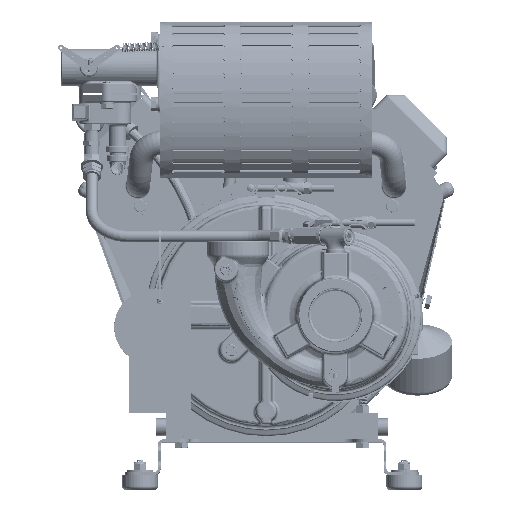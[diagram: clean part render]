
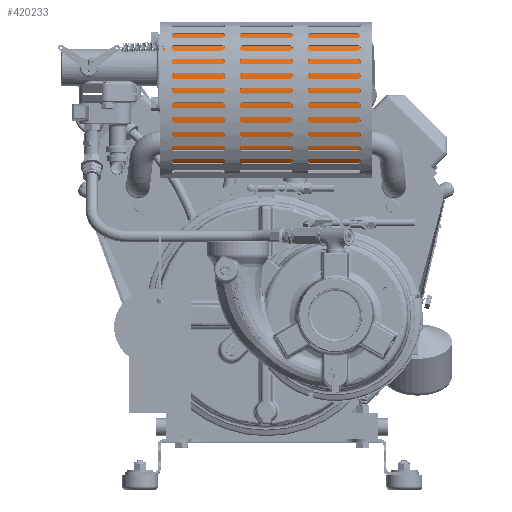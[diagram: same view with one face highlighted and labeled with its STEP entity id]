
A CAD part, top view. The second image highlights one B-rep face of the part: STEP entity #420233.
In plain terms, the highlighted free-form (B-spline) face has degree [3, 1] with [4, 2] control points.
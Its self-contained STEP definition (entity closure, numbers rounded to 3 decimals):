
#43810 = CARTESIAN_POINT ( 'NONE',  ( 104.819, 328.498, 188.824 ) ) ;
#59015 = ORIENTED_EDGE ( 'NONE', *, *, #178415, .T. ) ;
#71628 = CARTESIAN_POINT ( 'NONE',  ( 104.819, 328.498, 112.624 ) ) ;
#74162 = VECTOR ( 'NONE', #372693, 1000. ) ;
#76799 = CARTESIAN_POINT ( 'NONE',  ( -117.431, 477.85, 112.624 ) ) ;
#83897 = CARTESIAN_POINT ( 'NONE',  ( -117.431, 477.85, 112.624 ) ) ;
#85684 = LINE ( 'NONE', #189418, #74162 ) ;
#100847 = ORIENTED_EDGE ( 'NONE', *, *, #359178, .F. ) ;
#120546 = CARTESIAN_POINT ( 'NONE',  ( -117.431, 477.85, 188.824 ) ) ;
#121052 = VERTEX_POINT ( 'NONE', #398915 ) ;
#130150 = CARTESIAN_POINT ( 'NONE',  ( 104.819, 477.85, 112.624 ) ) ;
#140943 = VERTEX_POINT ( 'NONE', #71628 ) ;
#144332 = FACE_OUTER_BOUND ( 'NONE', #299864, .T. ) ;
#152283 =( BOUNDED_CURVE ( )  B_SPLINE_CURVE ( 3, ( #225358, #262009, #43810, #298632 ),
 .UNSPECIFIED., .F., .F. ) 
 B_SPLINE_CURVE_WITH_KNOTS ( ( 4, 4 ),
 ( 3.142, 6.283 ),
 .UNSPECIFIED. ) 
 CURVE ( )  GEOMETRIC_REPRESENTATION_ITEM ( )  RATIONAL_B_SPLINE_CURVE ( ( 1., 0.333, 0.333, 1. ) ) 
 REPRESENTATION_ITEM ( '' )  );
#157223 = CARTESIAN_POINT ( 'NONE',  ( -117.431, 328.498, 188.824 ) ) ;
#157248 = VECTOR ( 'NONE', #239265, 1000. ) ;
#178415 = EDGE_CURVE ( 'NONE', #273023, #121052, #85684, .T. ) ;
#180025 = LINE ( 'NONE', #202708, #157248 ) ;
#189418 = CARTESIAN_POINT ( 'NONE',  ( 104.819, 477.85, 112.624 ) ) ;
#193703 = CARTESIAN_POINT ( 'NONE',  ( -117.431, 328.498, 112.624 ) ) ;
#202708 = CARTESIAN_POINT ( 'NONE',  ( 104.819, 328.498, 112.624 ) ) ;
#210776 = CARTESIAN_POINT ( 'NONE',  ( -117.431, 328.498, 112.624 ) ) ;
#225358 = CARTESIAN_POINT ( 'NONE',  ( 104.819, 477.85, 112.624 ) ) ;
#239265 = DIRECTION ( 'NONE',  ( -1., 0., 0. ) ) ;
#242318 = CARTESIAN_POINT ( 'NONE',  ( -117.431, 328.498, 112.624 ) ) ;
#253048 = EDGE_CURVE ( 'NONE', #140943, #365871, #180025, .T. ) ;
#259581 = ORIENTED_EDGE ( 'NONE', *, *, #253048, .F. ) ;
#262009 = CARTESIAN_POINT ( 'NONE',  ( 104.819, 477.85, 188.824 ) ) ;
#263833 = CARTESIAN_POINT ( 'NONE',  ( 104.819, 477.85, 112.624 ) ) ;
#266009 =( BOUNDED_CURVE ( )  B_SPLINE_CURVE ( 3, ( #76799, #406563, #429107, #210776 ),
 .UNSPECIFIED., .F., .F. ) 
 B_SPLINE_CURVE_WITH_KNOTS ( ( 4, 4 ),
 ( 3.142, 6.283 ),
 .UNSPECIFIED. ) 
 CURVE ( )  GEOMETRIC_REPRESENTATION_ITEM ( )  RATIONAL_B_SPLINE_CURVE ( ( 1., 0.333, 0.333, 1. ) ) 
 REPRESENTATION_ITEM ( '' )  );
#273023 = VERTEX_POINT ( 'NONE', #130150 ) ;
#298632 = CARTESIAN_POINT ( 'NONE',  ( 104.819, 328.498, 112.624 ) ) ;
#299864 = EDGE_LOOP ( 'NONE', ( #100847, #59015, #418115, #259581 ) ) ;
#338729 = CARTESIAN_POINT ( 'NONE',  ( 104.819, 477.85, 188.824 ) ) ;
#359178 = EDGE_CURVE ( 'NONE', #273023, #140943, #152283, .T. ) ;
#360622 = EDGE_CURVE ( 'NONE', #121052, #365871, #266009, .T. ) ;
#361069 =( BOUNDED_SURFACE ( )  B_SPLINE_SURFACE ( 3, 1, ( 
 ( #263833, #83897 ),
 ( #338729, #120546 ),
 ( #375425, #157223 ),
 ( #412055, #193703 ) ),
 .UNSPECIFIED., .F., .F., .F. ) 
 B_SPLINE_SURFACE_WITH_KNOTS ( ( 4, 4 ),
 ( 2, 2 ),
 ( 0., 1. ),
 ( 0., 1. ),
 .UNSPECIFIED. ) 
 GEOMETRIC_REPRESENTATION_ITEM ( )  RATIONAL_B_SPLINE_SURFACE ( (
 ( 1., 1.),
 ( 0.333, 0.333),
 ( 0.333, 0.333),
 ( 1., 1.) ) ) 
 REPRESENTATION_ITEM ( '' )  SURFACE ( )  );
#365871 = VERTEX_POINT ( 'NONE', #242318 ) ;
#372693 = DIRECTION ( 'NONE',  ( -1., 0., 0. ) ) ;
#375425 = CARTESIAN_POINT ( 'NONE',  ( 104.819, 328.498, 188.824 ) ) ;
#398915 = CARTESIAN_POINT ( 'NONE',  ( -117.431, 477.85, 112.624 ) ) ;
#406563 = CARTESIAN_POINT ( 'NONE',  ( -117.431, 477.85, 188.824 ) ) ;
#412055 = CARTESIAN_POINT ( 'NONE',  ( 104.819, 328.498, 112.624 ) ) ;
#418115 = ORIENTED_EDGE ( 'NONE', *, *, #360622, .T. ) ;
#420233 = ADVANCED_FACE ( 'NONE', ( #144332 ), #361069, .F. ) ;
#429107 = CARTESIAN_POINT ( 'NONE',  ( -117.431, 328.498, 188.824 ) ) ;
